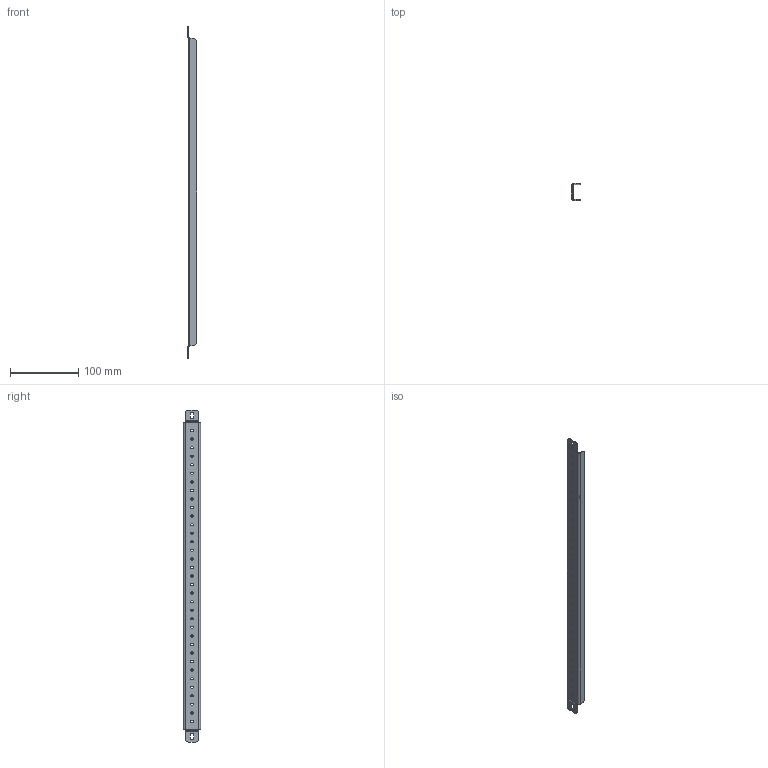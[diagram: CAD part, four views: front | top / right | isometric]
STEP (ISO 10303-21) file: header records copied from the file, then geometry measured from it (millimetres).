
FILE_DESCRIPTION (( 'STEP AP214' ), '1' );
FILE_NAME ('RGC 60 Z_v.2.STEP', '2023-12-25T07:18:44', ( '' ), ( '' ), 'SwSTEP 2.0', 'SolidWorks 2019', '' );
FILE_SCHEMA (( 'AUTOMOTIVE_DESIGN' ));
Length unit declared in the file: millimetre
Products named in the file (1): RGC 60 Z_v.2
Bounding box: 13.2 x 25 x 485 mm (x, y, z)
Volume: 24599.6 mm3; surface area: 42775.9 mm2
Topology: 1 solids, 1 shells, 142 faces, 376 edges, 236 vertices
Faces by surface type: cylinder 94, plane 48
Entity records: 4618 total; most frequent: DIRECTION 850, CARTESIAN_POINT 755, ORIENTED_EDGE 752, EDGE_CURVE 376, AXIS2_PLACEMENT_3D 331, VERTEX_POINT 236, EDGE_LOOP 216, LINE 188
